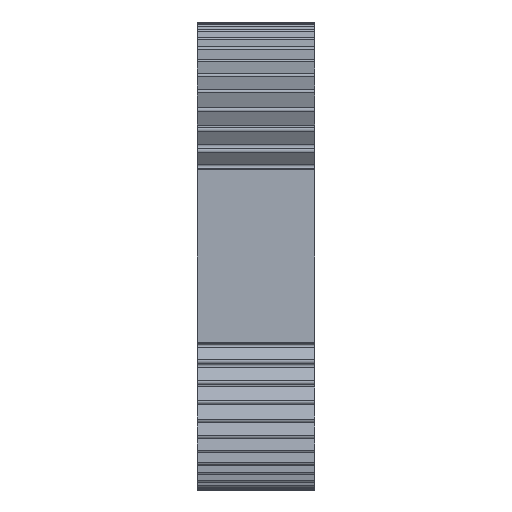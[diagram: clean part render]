
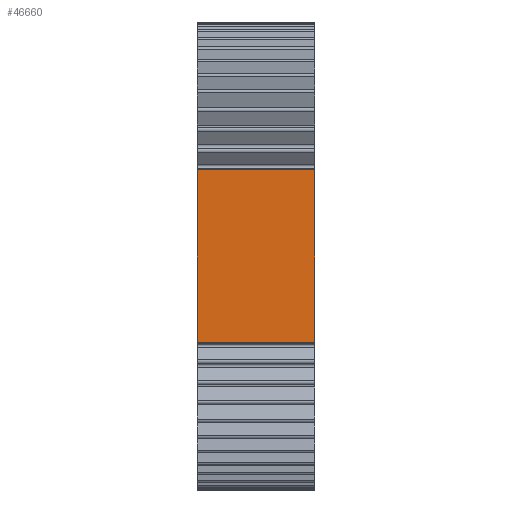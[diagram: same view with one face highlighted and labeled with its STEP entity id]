
A CAD part, front view. The second image highlights one B-rep face of the part: STEP entity #46660.
In plain terms, the highlighted planar face has unit normal (0, -1, 0).
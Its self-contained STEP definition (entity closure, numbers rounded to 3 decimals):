
#8780=CARTESIAN_POINT('',(5.541,18.644,
-4.414));
#8790=VERTEX_POINT('',#8780);
#8820=CARTESIAN_POINT('',(5.541,18.644,
-4.414));
#8830=DIRECTION('',(0.,0.,1.));
#8840=VECTOR('',#8830,1.);
#8850=LINE('',#8820,#8840);
#8860=CARTESIAN_POINT('',(5.541,18.644,
4.414));
#8870=VERTEX_POINT('',#8860);
#8880=EDGE_CURVE('',#8790,#8870,#8850,.T.);
#46290=CARTESIAN_POINT('',(-0.459,18.644,
-4.414));
#46300=VERTEX_POINT('',#46290);
#46330=CARTESIAN_POINT('',(5.541,18.644,
-4.414));
#46340=DIRECTION('',(-1.,0.,0.));
#46350=VECTOR('',#46340,1.);
#46360=LINE('',#46330,#46350);
#46370=EDGE_CURVE('',#8790,#46300,#46360,.T.);
#46430=CARTESIAN_POINT('',(5.541,18.644,
4.414));
#46440=DIRECTION('',(0.,-1.,0.));
#46450=DIRECTION('',(0.,0.,-1.));
#46460=AXIS2_PLACEMENT_3D('',#46430,#46440,#46450);
#46470=PLANE('',#46460);
#46480=ORIENTED_EDGE('',*,*,#46370,.F.);
#46490=CARTESIAN_POINT('',(-0.459,18.644,
9.708));
#46500=DIRECTION('',(0.,0.,1.));
#46510=VECTOR('',#46500,1.);
#46520=LINE('',#46490,#46510);
#46530=CARTESIAN_POINT('',(-0.459,18.644,
4.414));
#46540=VERTEX_POINT('',#46530);
#46550=EDGE_CURVE('',#46300,#46540,#46520,.T.);
#46560=ORIENTED_EDGE('',*,*,#46550,.F.);
#46570=CARTESIAN_POINT('',(5.541,18.644,
4.414));
#46580=DIRECTION('',(-1.,0.,0.));
#46590=VECTOR('',#46580,1.);
#46600=LINE('',#46570,#46590);
#46610=EDGE_CURVE('',#8870,#46540,#46600,.T.);
#46620=ORIENTED_EDGE('',*,*,#46610,.T.);
#46630=ORIENTED_EDGE('',*,*,#8880,.T.);
#46640=EDGE_LOOP('',(#46630,#46620,#46560,#46480));
#46650=FACE_OUTER_BOUND('',#46640,.T.);
#46660=ADVANCED_FACE('',(#46650),#46470,.T.);
